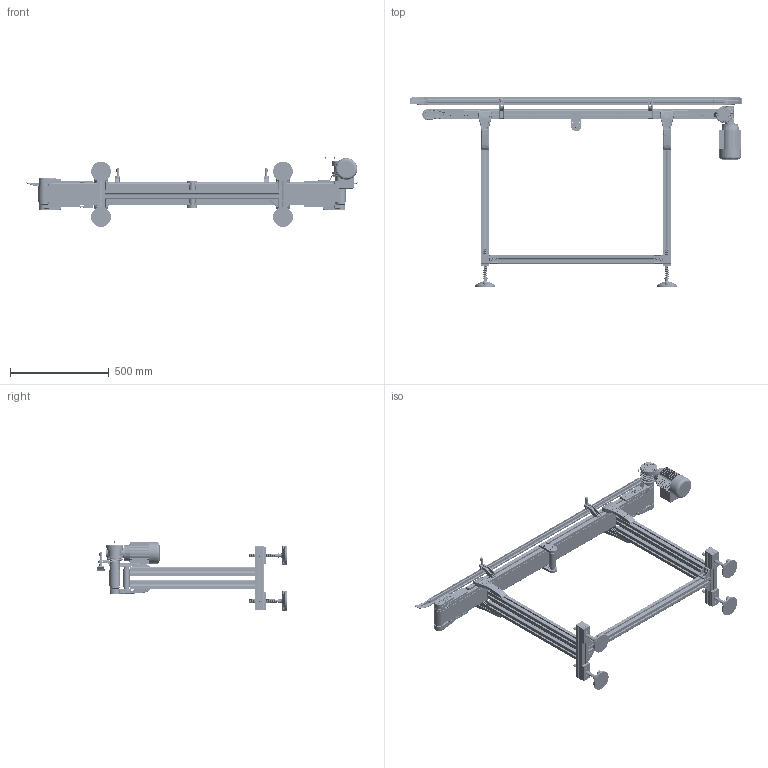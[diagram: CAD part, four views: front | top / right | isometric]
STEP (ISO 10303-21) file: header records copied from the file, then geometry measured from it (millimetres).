
FILE_DESCRIPTION (( 'STEP AP203' ), '1' );
FILE_NAME ('NASTRO_RETTILINEO_TAPPETO.step', '2026-04-21T10:08:08', ( 'Utente Windows' ), ( '' ), 'SwSTEP 2.0', 'SolidWorks 2024', '' );
FILE_SCHEMA (( 'CONFIG_CONTROL_DESIGN' ));
Length unit declared in the file: millimetre
Products named in the file (78): VITI TSEI UNI 5933 INOX_0412UNI5933A2; CH03P_DX; PIEDE; FLANGIA_GAMBA_50; 084.302.000 DADI ALUSIC 13x13-1_084.302.007; GAMBE_D50_Default<A macchina>; 084.802.008; 084.711.005; 084.807.003_084.807.003<A macchina>; CHIAVETTE_A 5x5x40 UNI 6604-69; 084.302.000 DADI ALUSIC 13x13-1_084.302.004; CHIAVETTE_A 5x5x20 UNI 6604-69; 084.302.000 DADI ALUSIC 13x13-1_084.302.009; 084.301.000 VITI ALUSIC1_084.301.003; 084.802.014; 084.803.018; 084.302.000 DADI ALUSIC 13x13_084.302.004; VITI TE UNI 5739_M6x16 UNI 5739; 084.811.001; RONDELLE UNI 6592_8.4x17 UNI 6592; GRANI A PUNTA CONICA UNI 5927_M6x16 UNI 5927; VITI TCEI UNI 5931_M6x12 UNI 5931; BLOCCO_REGGITAPPETO; LAMIERA_STANDARD; BLOCCO_BRACCIO_CH03P_VF30P; BLOCCO_PERNO_50_30; 084.201.012-1; 2010.000.068; 084.802.065_Default<A macchina>; VITI TSEI UNI 5933_M4x10 UNI 5933; SPONDA_Default<A macchina>; 2010.000.070; VITI TSEI UNI 5933_M5x12 UNI 5933; 084.711.010; 084.402.005; 084.405.001; 084.201.012; 14UNI7435; 2010.000.069; VITE_RONDELLA_M8X20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
Assembly tree (176 placements, depth 4):
  NASTRO_RETTILINEO_TAPPETO
    TAPPETO_STANDARD
    TELAIO_50_STANDARD_Default<A macchina>
    LAMIERA_STANDARD
    RULLO_50_Default<A macchina>  x2
    BLOCCO_PERNO_50_30
      084.810.001
      084.811.001
      RONDELLE FASCIA LARGA UNI 6593_5.4x20 UNI 6593
      084.301.000 VITI ALUSIC_084.301.009
      CHIAVETTE_A 5x5x40 UNI 6604-69
      CHIAVETTE_A 5x5x20 UNI 6604-69
      14UNI7435
    BLOCCO_TRAINO_50_STANDARD_30_DX
      084.807.003_084.807.003<A macchina>
      084.802.017_084.802.017
      084.301.000 VITI ALUSIC_084.301.003  x2
      084.302.000 DADI ALUSIC 13x13-1_084.302.004  x2
      BLOCCO_BRACCIO_CH03P_VF30P
        084.808.012
        084.802.062
        084.802.061
        VITI TE UNI 5739_M6x16 UNI 5739  x4
        084.803.018
        VITI TCEI UNI 5931_M6x12 UNI 5931  x4
      084.802.065_Default<A macchina>
      VITI TCEI UNI 5931_M4x25 UNI 5931  x2
    BLOCCO_PERNO_50_RINVIO  x3
      084.811.004
      084.810.001
    BLOCCO_TRAINO_50_STANDARD
      084.807.002_084.807.002
      084.802.017_084.802.017
      084.301.000 VITI ALUSIC_084.301.003  x2
      084.302.000 DADI ALUSIC 13x13-1_084.302.004  x2
      VITI TSEI UNI 5933_M4x12 UNI 5933  x4
      084.802.071
      VITI TSEI UNI 5933 INOX_0412UNI5933A2  x2
    BLOCCO_RINVIO_50_STANDARD  x2
      084.807.002_084.807.002
      084.802.017_084.802.017
      084.802.008
      084.301.000 VITI ALUSIC_084.301.003
      084.302.000 DADI ALUSIC 13x13_084.302.004
      VITI TSEI UNI 5933_M4x10 UNI 5933
      084.802.071
    SPONDA_Default<A macchina>
    084.711.006_PER CAVA 8 PERNO ALTO 1  x2
      084.711.006_L1
      084.711.006_L2
      084.711.007
      084.711.005
      084.711.010
      DADI ESAGONALI NORMALI UNI 5588_M6 UNI 5588
    084.712.005  x2
      084.712.005
      DADI ESAGONALI NORMALI UNI 5588_M6 UNI 5588
      GRANI A PUNTA CONICA UNI 5927_M6x16 UNI 5927
    GAMBE_D50_Default<A macchina>  x2
    FLANGIA_GAMBA_50
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Bounding box: 1678.97 x 962.1 x 352.94 mm (x, y, z)
Volume: 9700024.8 mm3; surface area: 6435963.1 mm2
Topology: 296 solids, 304 shells, 16046 faces, 41789 edges, 26587 vertices
Faces by surface type: plane 6721, cylinder 4919, bspline 1746, cone 1387, torus 1107, sphere 166
Entity records: 251662 total; most frequent: CARTESIAN_POINT 85345, ORIENTED_EDGE 34052, DIRECTION 30880, EDGE_CURVE 17026, VERTEX_POINT 10934, AXIS2_PLACEMENT_3D 10810, LINE 9260, VECTOR 9260
